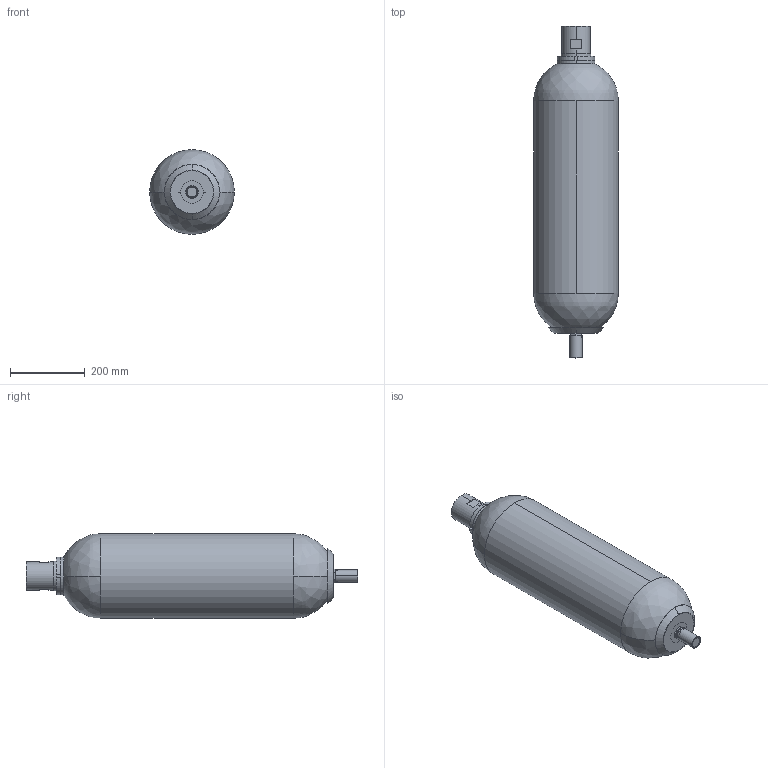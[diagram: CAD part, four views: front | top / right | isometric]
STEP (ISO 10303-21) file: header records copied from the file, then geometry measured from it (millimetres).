
FILE_DESCRIPTION((''),'2;1');
FILE_NAME('EHV_20_330_90.stp','2011-02-28T16:51:09',(''),(''),'Mechanical Desktop 2009','Mechanical Desktop 2009',', , ');
FILE_SCHEMA(('CONFIG_CONTROL_DESIGN'));
Length unit declared in the file: millimetre
Products named in the file (73): DESSIN13; AC108371-01125; CA108361-00190; CA108361-00190A; PF108368-05200A; PF108368-05200; PF108368-05200|AVE_RENDER; PF108368-05200|AVE_GLOBAL; EC102958-00200; EC102958-00200A; BP102851-00200; BOUCHON DE PROTECTION; BOUCHON PLASTIQUE; BC110298-01720; BE105544-01700A; BE105544-01700; EC100990-01200A; EC100990-01200; BM110296-01700; CB110082-01700; CB110082-01700A; GABARIT; VE108378-00225; CS108389-00225; CV108365-00200; CV108365-00200A; CS108389-00025A; CS108389-00025; CI108277-00025A; CI108277-00025; VA108479-01626; VA108473-01626; VA108439-01600A; VA108439-01600; VA108439-01600|GABARIT; VA108437-01600; VA108437-01600A; VA108437-01600|GABARITMDT4; VA108437-01600|GABARIT; PI108438-01600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
Assembly tree (28 placements, depth 6):
  DESSIN13
    AC108371-01125
      CA108361-00190
        CA108361-00190A
      PF108368-05200A
        PF108368-05200
        PF108368-05200|AVE_RENDER  x8
        PF108368-05200|AVE_GLOBAL
      EC102958-00200
        EC102958-00200A
      BP102851-00200
        BOUCHON DE PROTECTION
        BOUCHON PLASTIQUE
      BC110298-01720
        BE105544-01700A
          BE105544-01700
        EC100990-01200A
          EC100990-01200
        BM110296-01700
          CB110082-01700
            CB110082-01700A
    GABARIT
  VE108378-00225
  CS108389-00225
  CV108365-00200
  CV108365-00200A
Bounding box: 226 x 887.2 x 226 mm (x, y, z)
Volume: 6393879.8 mm3; surface area: 1120692.6 mm2
Topology: 8 solids, 8 shells, 208 faces, 493 edges, 303 vertices
Faces by surface type: cylinder 74, plane 53, cone 48, bspline 25, torus 8
Entity records: 8272 total; most frequent: CARTESIAN_POINT 2097, DIRECTION 1224, ORIENTED_EDGE 970, AXIS2_PLACEMENT_3D 525, EDGE_CURVE 485, VERTEX_POINT 301, CIRCLE 293, EDGE_LOOP 242
